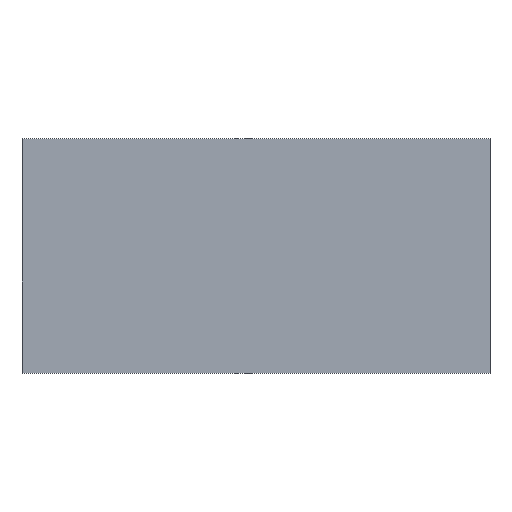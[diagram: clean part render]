
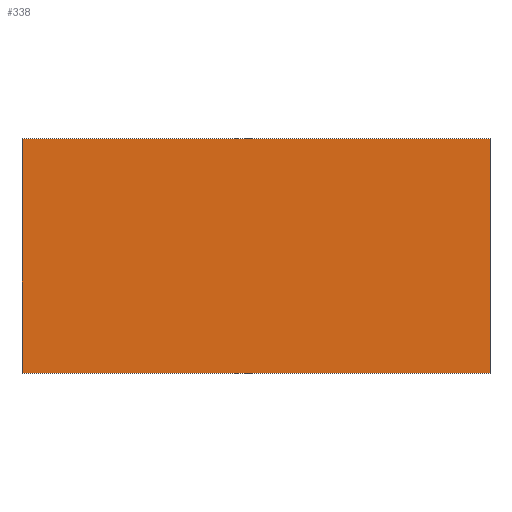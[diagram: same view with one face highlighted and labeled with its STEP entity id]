
A CAD part, top view. The second image highlights one B-rep face of the part: STEP entity #338.
In plain terms, the highlighted planar face has unit normal (0, 0, 1).
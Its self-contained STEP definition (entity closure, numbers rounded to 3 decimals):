
#24 = VERTEX_POINT('',#25);
#25 = CARTESIAN_POINT('',(-3.175,-1.59,0.635));
#32 = PLANE('',#33);
#33 = AXIS2_PLACEMENT_3D('',#34,#35,#36);
#34 = CARTESIAN_POINT('',(-3.175,-1.59,0.));
#35 = DIRECTION('',(1.,0.,-0.));
#36 = DIRECTION('',(0.,0.,1.));
#44 = PLANE('',#45);
#45 = AXIS2_PLACEMENT_3D('',#46,#47,#48);
#46 = CARTESIAN_POINT('',(-3.175,-1.59,0.));
#47 = DIRECTION('',(-0.,1.,0.));
#48 = DIRECTION('',(0.,0.,1.));
#85 = VERTEX_POINT('',#86);
#86 = CARTESIAN_POINT('',(-3.175,1.59,0.635));
#100 = PLANE('',#101);
#101 = AXIS2_PLACEMENT_3D('',#102,#103,#104);
#102 = CARTESIAN_POINT('',(-3.175,1.59,0.));
#103 = DIRECTION('',(-0.,1.,0.));
#104 = DIRECTION('',(0.,0.,1.));
#112 = EDGE_CURVE('',#24,#85,#113,.T.);
#113 = SURFACE_CURVE('',#114,(#118,#125),.PCURVE_S1.);
#114 = LINE('',#115,#116);
#115 = CARTESIAN_POINT('',(-3.175,-1.59,0.635));
#116 = VECTOR('',#117,1.);
#117 = DIRECTION('',(-0.,1.,0.));
#118 = PCURVE('',#32,#119);
#119 = DEFINITIONAL_REPRESENTATION('',(#120),#124);
#120 = LINE('',#121,#122);
#121 = CARTESIAN_POINT('',(0.635,0.));
#122 = VECTOR('',#123,1.);
#123 = DIRECTION('',(0.,-1.));
#124 = ( GEOMETRIC_REPRESENTATION_CONTEXT(2) 
PARAMETRIC_REPRESENTATION_CONTEXT() REPRESENTATION_CONTEXT('2D SPACE',''
  ) );
#125 = PCURVE('',#126,#131);
#126 = PLANE('',#127);
#127 = AXIS2_PLACEMENT_3D('',#128,#129,#130);
#128 = CARTESIAN_POINT('',(-3.175,-1.59,0.635));
#129 = DIRECTION('',(0.,0.,1.));
#130 = DIRECTION('',(1.,0.,-0.));
#131 = DEFINITIONAL_REPRESENTATION('',(#132),#136);
#132 = LINE('',#133,#134);
#133 = CARTESIAN_POINT('',(0.,0.));
#134 = VECTOR('',#135,1.);
#135 = DIRECTION('',(0.,1.));
#136 = ( GEOMETRIC_REPRESENTATION_CONTEXT(2) 
PARAMETRIC_REPRESENTATION_CONTEXT() REPRESENTATION_CONTEXT('2D SPACE',''
  ) );
#144 = VERTEX_POINT('',#145);
#145 = CARTESIAN_POINT('',(3.175,-1.59,0.635));
#152 = PLANE('',#153);
#153 = AXIS2_PLACEMENT_3D('',#154,#155,#156);
#154 = CARTESIAN_POINT('',(3.175,-1.59,0.));
#155 = DIRECTION('',(1.,0.,-0.));
#156 = DIRECTION('',(0.,0.,1.));
#195 = VERTEX_POINT('',#196);
#196 = CARTESIAN_POINT('',(3.175,1.59,0.635));
#217 = EDGE_CURVE('',#144,#195,#218,.T.);
#218 = SURFACE_CURVE('',#219,(#223,#230),.PCURVE_S1.);
#219 = LINE('',#220,#221);
#220 = CARTESIAN_POINT('',(3.175,-1.59,0.635));
#221 = VECTOR('',#222,1.);
#222 = DIRECTION('',(-0.,1.,0.));
#223 = PCURVE('',#152,#224);
#224 = DEFINITIONAL_REPRESENTATION('',(#225),#229);
#225 = LINE('',#226,#227);
#226 = CARTESIAN_POINT('',(0.635,0.));
#227 = VECTOR('',#228,1.);
#228 = DIRECTION('',(0.,-1.));
#229 = ( GEOMETRIC_REPRESENTATION_CONTEXT(2) 
PARAMETRIC_REPRESENTATION_CONTEXT() REPRESENTATION_CONTEXT('2D SPACE',''
  ) );
#230 = PCURVE('',#126,#231);
#231 = DEFINITIONAL_REPRESENTATION('',(#232),#236);
#232 = LINE('',#233,#234);
#233 = CARTESIAN_POINT('',(6.35,0.));
#234 = VECTOR('',#235,1.);
#235 = DIRECTION('',(0.,1.));
#236 = ( GEOMETRIC_REPRESENTATION_CONTEXT(2) 
PARAMETRIC_REPRESENTATION_CONTEXT() REPRESENTATION_CONTEXT('2D SPACE',''
  ) );
#263 = EDGE_CURVE('',#24,#144,#264,.T.);
#264 = SURFACE_CURVE('',#265,(#269,#276),.PCURVE_S1.);
#265 = LINE('',#266,#267);
#266 = CARTESIAN_POINT('',(-3.175,-1.59,0.635));
#267 = VECTOR('',#268,1.);
#268 = DIRECTION('',(1.,0.,-0.));
#269 = PCURVE('',#44,#270);
#270 = DEFINITIONAL_REPRESENTATION('',(#271),#275);
#271 = LINE('',#272,#273);
#272 = CARTESIAN_POINT('',(0.635,0.));
#273 = VECTOR('',#274,1.);
#274 = DIRECTION('',(0.,1.));
#275 = ( GEOMETRIC_REPRESENTATION_CONTEXT(2) 
PARAMETRIC_REPRESENTATION_CONTEXT() REPRESENTATION_CONTEXT('2D SPACE',''
  ) );
#276 = PCURVE('',#126,#277);
#277 = DEFINITIONAL_REPRESENTATION('',(#278),#282);
#278 = LINE('',#279,#280);
#279 = CARTESIAN_POINT('',(0.,0.));
#280 = VECTOR('',#281,1.);
#281 = DIRECTION('',(1.,0.));
#282 = ( GEOMETRIC_REPRESENTATION_CONTEXT(2) 
PARAMETRIC_REPRESENTATION_CONTEXT() REPRESENTATION_CONTEXT('2D SPACE',''
  ) );
#310 = EDGE_CURVE('',#85,#195,#311,.T.);
#311 = SURFACE_CURVE('',#312,(#316,#323),.PCURVE_S1.);
#312 = LINE('',#313,#314);
#313 = CARTESIAN_POINT('',(-3.175,1.59,0.635));
#314 = VECTOR('',#315,1.);
#315 = DIRECTION('',(1.,0.,-0.));
#316 = PCURVE('',#100,#317);
#317 = DEFINITIONAL_REPRESENTATION('',(#318),#322);
#318 = LINE('',#319,#320);
#319 = CARTESIAN_POINT('',(0.635,0.));
#320 = VECTOR('',#321,1.);
#321 = DIRECTION('',(0.,1.));
#322 = ( GEOMETRIC_REPRESENTATION_CONTEXT(2) 
PARAMETRIC_REPRESENTATION_CONTEXT() REPRESENTATION_CONTEXT('2D SPACE',''
  ) );
#323 = PCURVE('',#126,#324);
#324 = DEFINITIONAL_REPRESENTATION('',(#325),#329);
#325 = LINE('',#326,#327);
#326 = CARTESIAN_POINT('',(0.,3.18));
#327 = VECTOR('',#328,1.);
#328 = DIRECTION('',(1.,0.));
#329 = ( GEOMETRIC_REPRESENTATION_CONTEXT(2) 
PARAMETRIC_REPRESENTATION_CONTEXT() REPRESENTATION_CONTEXT('2D SPACE',''
  ) );
#338 = ADVANCED_FACE('',(#339),#126,.T.);
#339 = FACE_BOUND('',#340,.T.);
#340 = EDGE_LOOP('',(#341,#342,#343,#344));
#341 = ORIENTED_EDGE('',*,*,#112,.F.);
#342 = ORIENTED_EDGE('',*,*,#263,.T.);
#343 = ORIENTED_EDGE('',*,*,#217,.T.);
#344 = ORIENTED_EDGE('',*,*,#310,.F.);
